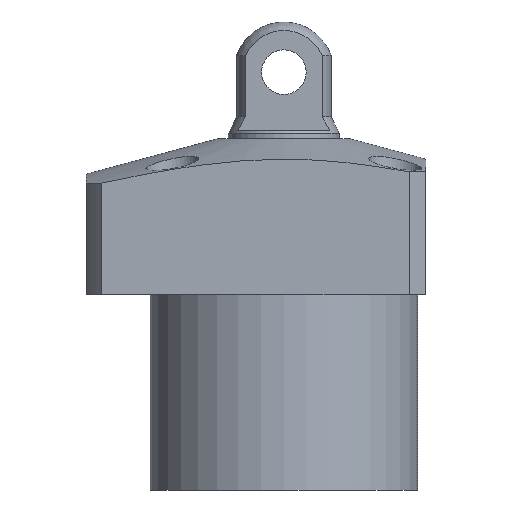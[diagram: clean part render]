
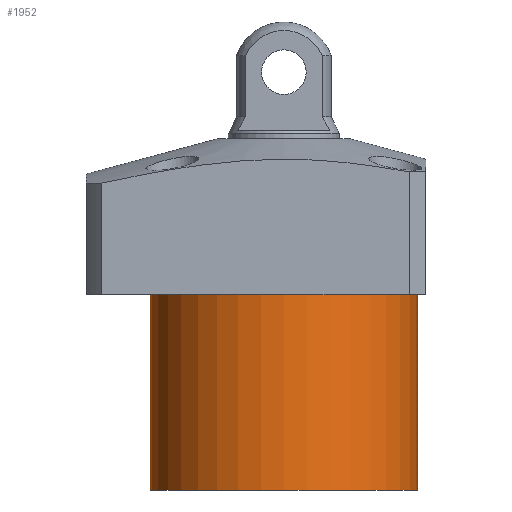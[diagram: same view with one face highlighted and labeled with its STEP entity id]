
A CAD part, front view. The second image highlights one B-rep face of the part: STEP entity #1952.
In plain terms, the highlighted cylindrical face has radius 24 mm (diameter 48 mm), a partial arc.
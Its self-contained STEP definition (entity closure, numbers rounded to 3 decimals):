
#36 = AXIS2_PLACEMENT_3D ( 'NONE', #1483, #2074, #2309 ) ;
#47 = ORIENTED_EDGE ( 'NONE', *, *, #884, .T. ) ;
#114 = CYLINDRICAL_SURFACE ( 'NONE', #863, 24. ) ;
#270 = FACE_OUTER_BOUND ( 'NONE', #2313, .T. ) ;
#348 = LINE ( 'NONE', #1325, #878 ) ;
#356 = LINE ( 'NONE', #1202, #447 ) ;
#365 = EDGE_CURVE ( 'NONE', #608, #1515, #348, .T. ) ;
#447 = VECTOR ( 'NONE', #1580, 1000. ) ;
#608 = VERTEX_POINT ( 'NONE', #1661 ) ;
#637 = ORIENTED_EDGE ( 'NONE', *, *, #365, .T. ) ;
#666 = DIRECTION ( 'NONE',  ( 0., 0., -1. ) ) ;
#800 = CIRCLE ( 'NONE', #2519, 24. ) ;
#863 = AXIS2_PLACEMENT_3D ( 'NONE', #1925, #2134, #942 ) ;
#878 = VECTOR ( 'NONE', #1914, 1000. ) ;
#884 = EDGE_CURVE ( 'NONE', #1515, #1463, #800, .T. ) ;
#942 = DIRECTION ( 'NONE',  ( 1., 0., 0. ) ) ;
#992 = ORIENTED_EDGE ( 'NONE', *, *, #2553, .F. ) ;
#1002 = CIRCLE ( 'NONE', #36, 24. ) ;
#1202 = CARTESIAN_POINT ( 'NONE',  ( -24., 0., -49. ) ) ;
#1325 = CARTESIAN_POINT ( 'NONE',  ( 24., 0., -49. ) ) ;
#1327 = CARTESIAN_POINT ( 'NONE',  ( -24., 0., -49. ) ) ;
#1456 = CARTESIAN_POINT ( 'NONE',  ( -24., 0., -14. ) ) ;
#1463 = VERTEX_POINT ( 'NONE', #1456 ) ;
#1483 = CARTESIAN_POINT ( 'NONE',  ( 0., 0., -49. ) ) ;
#1515 = VERTEX_POINT ( 'NONE', #2502 ) ;
#1537 = VERTEX_POINT ( 'NONE', #1327 ) ;
#1580 = DIRECTION ( 'NONE',  ( 0., 0., 1. ) ) ;
#1661 = CARTESIAN_POINT ( 'NONE',  ( 24., 0., -49. ) ) ;
#1664 = CARTESIAN_POINT ( 'NONE',  ( 0., 0., -14. ) ) ;
#1675 = DIRECTION ( 'NONE',  ( 1., 0., 0. ) ) ;
#1849 = EDGE_CURVE ( 'NONE', #1537, #1463, #356, .T. ) ;
#1914 = DIRECTION ( 'NONE',  ( 0., 0., 1. ) ) ;
#1925 = CARTESIAN_POINT ( 'NONE',  ( 0., 0., -49. ) ) ;
#1952 = ADVANCED_FACE ( 'NONE', ( #270 ), #114, .T. ) ;
#2074 = DIRECTION ( 'NONE',  ( 0., 0., -1. ) ) ;
#2134 = DIRECTION ( 'NONE',  ( 0., 0., 1. ) ) ;
#2309 = DIRECTION ( 'NONE',  ( -1., 0., 0. ) ) ;
#2313 = EDGE_LOOP ( 'NONE', ( #2482, #992, #637, #47 ) ) ;
#2482 = ORIENTED_EDGE ( 'NONE', *, *, #1849, .F. ) ;
#2502 = CARTESIAN_POINT ( 'NONE',  ( 24., 0., -14. ) ) ;
#2519 = AXIS2_PLACEMENT_3D ( 'NONE', #1664, #666, #1675 ) ;
#2553 = EDGE_CURVE ( 'NONE', #608, #1537, #1002, .T. ) ;
